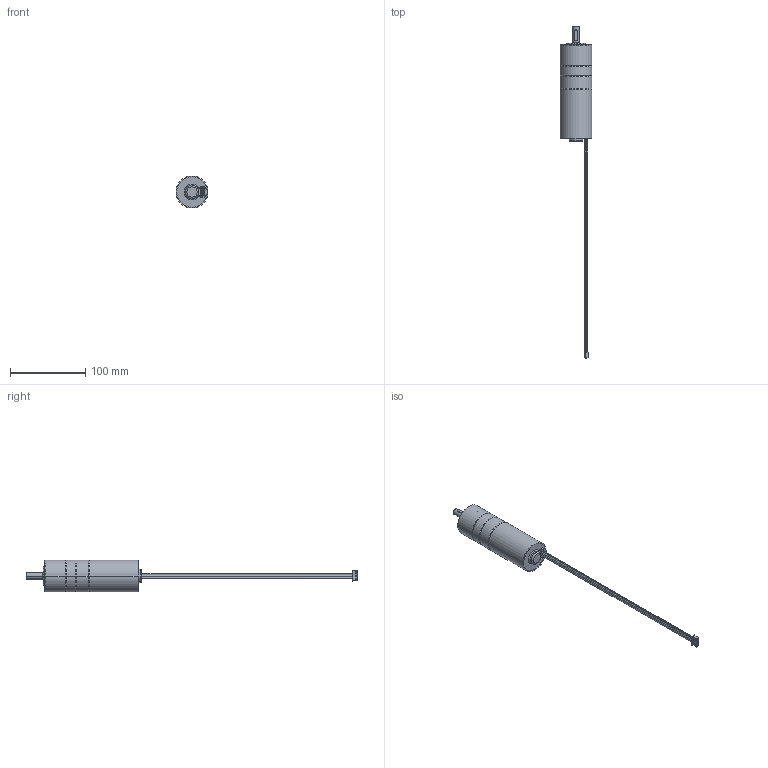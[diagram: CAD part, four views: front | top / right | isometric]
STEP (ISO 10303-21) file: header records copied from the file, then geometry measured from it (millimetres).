
FILE_DESCRIPTION((''),'2;1');
FILE_NAME('A_000_ASM','2024-01-17T15:07:59',('Danny.Guo'),(''),'CREO PARAMETRIC BY PTC INC, 2020414','CREO PARAMETRIC BY PTC INC, 2020414','');
FILE_SCHEMA(('CONFIG_CONTROL_DESIGN'));
Length unit declared in the file: millimetre
Products named in the file (3): A_000; XHP-5_0; A_000_ASM
Assembly tree (2 placements, depth 2):
  A_000_ASM
    A_000
    XHP-5_0
Bounding box: 42.4 x 440.15 x 42.4 mm (x, y, z)
Volume: 175420.8 mm3; surface area: 35720.6 mm2
Topology: 2 solids, 6 shells, 275 faces, 673 edges, 436 vertices
Faces by surface type: plane 155, cylinder 87, cone 28, torus 5
Entity records: 8180 total; most frequent: CARTESIAN_POINT 1448, DIRECTION 1442, ORIENTED_EDGE 1314, EDGE_CURVE 665, AXIS2_PLACEMENT_3D 505, VERTEX_POINT 436, VECTOR 432, LINE 432
